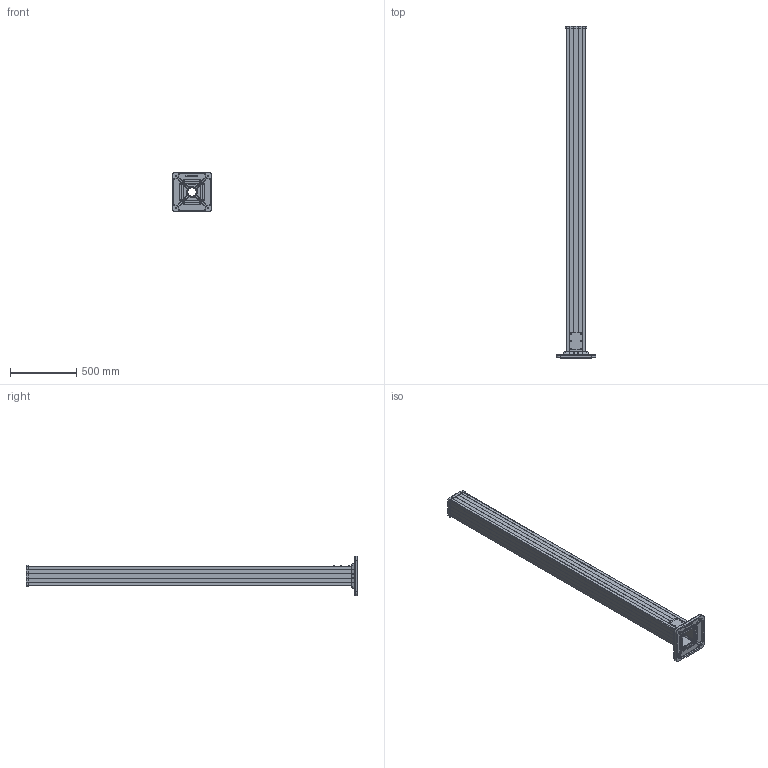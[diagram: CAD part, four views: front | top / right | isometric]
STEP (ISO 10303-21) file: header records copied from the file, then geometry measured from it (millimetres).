
FILE_DESCRIPTION (( 'STEP AP203' ), '1' );
FILE_NAME ('TK150.250.STEP', '2024-10-18T08:03:57', ( '' ), ( '' ), 'SwSTEP 2.0', 'SolidWorks 2022', '' );
FILE_SCHEMA (( 'CONFIG_CONTROL_DESIGN' ));
Products named in the file (1): TK150.250
Bounding box: 300 x 2500 x 300 mm (x, y, z)
Volume: 14502638.3 mm3; surface area: 3293527.2 mm2
Topology: 8 solids, 284 shells, 2664 faces, 6824 edges, 4195 vertices
Faces by surface type: cone 910, cylinder 727, plane 591, bspline 364, torus 50, sphere 22
Full cylindrical faces by diameter (mm): 5 x54, 5.5 x6, 8.5 x272, 9.5 x6, 10 x32, 11 x8, 13.5 x4, 16 x8, 19 x4, 22.5 x4, 70 x1, 85 x2
Entity records: 77431 total; most frequent: CARTESIAN_POINT 25645, DIRECTION 10574, ORIENTED_EDGE 9176, EDGE_CURVE 4588, AXIS2_PLACEMENT_3D 4485, EDGE_LOOP 4076, VERTEX_POINT 3312, FACE_OUTER_BOUND 3093
